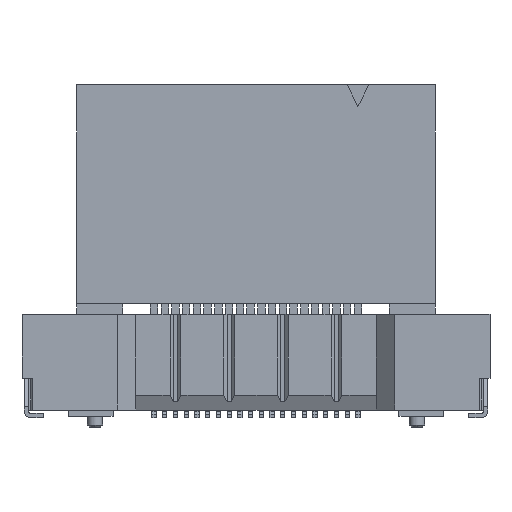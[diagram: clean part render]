
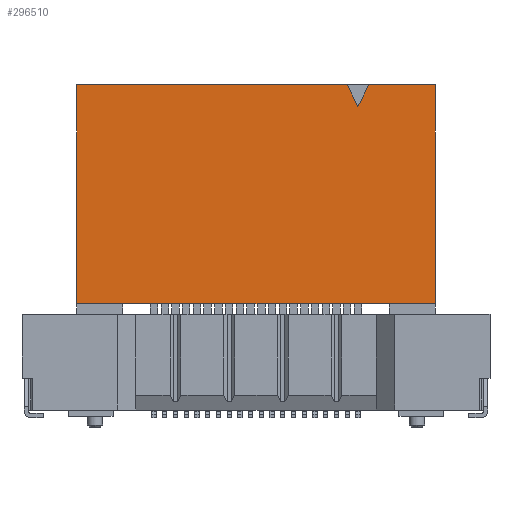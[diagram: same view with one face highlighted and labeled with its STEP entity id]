
A CAD part, front view. The second image highlights one B-rep face of the part: STEP entity #296510.
In plain terms, the highlighted planar face has unit normal (0, -1, 0).
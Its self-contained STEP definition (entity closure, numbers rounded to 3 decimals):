
#87650=CARTESIAN_POINT('',(-11.054,23.85,23.75));
#87660=VERTEX_POINT('',#87650);
#87690=CARTESIAN_POINT('',(-11.054,23.85,11.165));
#87700=DIRECTION('',(0.,0.,-1.));
#87710=VECTOR('',#87700,1.);
#87720=LINE('',#87690,#87710);
#87730=CARTESIAN_POINT('',(-11.054,23.85,13.55));
#87740=VERTEX_POINT('',#87730);
#87750=EDGE_CURVE('',#87660,#87740,#87720,.T.);
#125410=CARTESIAN_POINT('',(5.646,23.85,23.75));
#125420=VERTEX_POINT('',#125410);
#125450=CARTESIAN_POINT('',(-14.704,23.85,23.75));
#125460=DIRECTION('',(1.,0.,0.));
#125470=VECTOR('',#125460,1.);
#125480=LINE('',#125450,#125470);
#125490=CARTESIAN_POINT('',(2.546,23.85,23.75));
#125500=VERTEX_POINT('',#125490);
#125510=EDGE_CURVE('',#125500,#125420,#125480,.T.);
#125730=CARTESIAN_POINT('',(1.546,23.85,23.75));
#125740=VERTEX_POINT('',#125730);
#125770=CARTESIAN_POINT('',(-14.704,23.85,23.75));
#125780=DIRECTION('',(1.,0.,0.));
#125790=VECTOR('',#125780,1.);
#125800=LINE('',#125770,#125790);
#125810=EDGE_CURVE('',#87660,#125740,#125800,.T.);
#248040=CARTESIAN_POINT('',(2.046,23.85,22.75));
#248050=VERTEX_POINT('',#248040);
#248080=CARTESIAN_POINT('',(7.838,23.85,11.165));
#248090=DIRECTION('',(-0.447,0.,0.894));
#248100=VECTOR('',#248090,1.);
#248110=LINE('',#248080,#248100);
#248120=EDGE_CURVE('',#248050,#125740,#248110,.T.);
#248360=CARTESIAN_POINT('',(5.646,23.85,13.55));
#248370=VERTEX_POINT('',#248360);
#248400=CARTESIAN_POINT('',(5.646,23.85,11.165));
#248410=DIRECTION('',(0.,0.,-1.));
#248420=VECTOR('',#248410,1.);
#248430=LINE('',#248400,#248420);
#248440=EDGE_CURVE('',#125420,#248370,#248430,.T.);
#280380=CARTESIAN_POINT('',(-14.704,23.85,13.55));
#280390=DIRECTION('',(1.,0.,0.));
#280400=VECTOR('',#280390,1.);
#280410=LINE('',#280380,#280400);
#280420=EDGE_CURVE('',#87740,#248370,#280410,.T.);
#296320=CARTESIAN_POINT('',(-14.704,23.85,13.55));
#296330=DIRECTION('',(0.,-1.,0.));
#296340=DIRECTION('',(0.,0.,1.));
#296350=AXIS2_PLACEMENT_3D('',#296320,#296330,#296340);
#296360=PLANE('',#296350);
#296370=ORIENTED_EDGE('',*,*,#280420,.T.);
#296380=ORIENTED_EDGE('',*,*,#87750,.T.);
#296390=ORIENTED_EDGE('',*,*,#125810,.F.);
#296400=ORIENTED_EDGE('',*,*,#248120,.T.);
#296410=CARTESIAN_POINT('',(-3.747,23.85,11.165));
#296420=DIRECTION('',(-0.447,0.,-0.894));
#296430=VECTOR('',#296420,1.);
#296440=LINE('',#296410,#296430);
#296450=EDGE_CURVE('',#125500,#248050,#296440,.T.);
#296460=ORIENTED_EDGE('',*,*,#296450,.T.);
#296470=ORIENTED_EDGE('',*,*,#125510,.F.);
#296480=ORIENTED_EDGE('',*,*,#248440,.F.);
#296490=EDGE_LOOP('',(#296480,#296470,#296460,#296400,#296390,#296380,
#296370));
#296500=FACE_OUTER_BOUND('',#296490,.T.);
#296510=ADVANCED_FACE('',(#296500),#296360,.T.);
